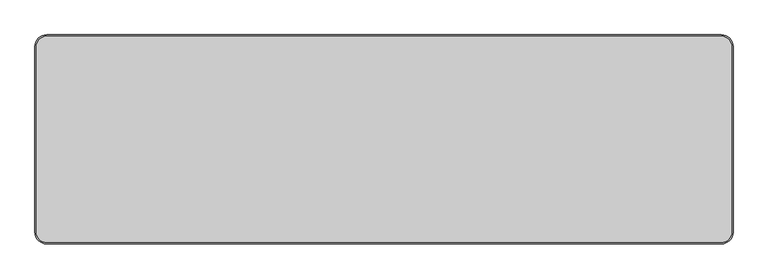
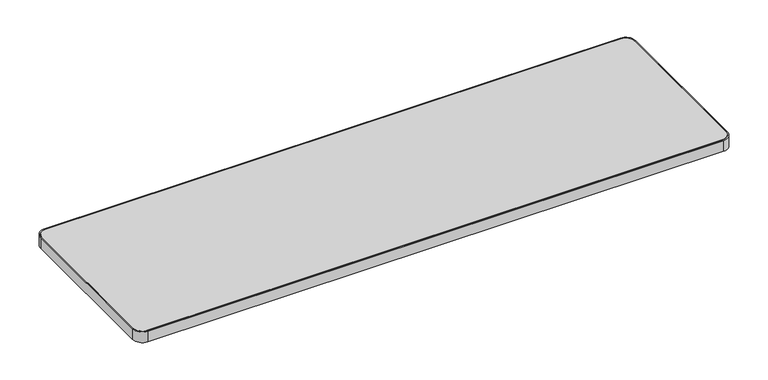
"""IFC4 building model written with IfcOpenShell, lengths in millimetres: furniture geometry, Steelcase - Groupwork - Table - Top - Rectangular : 18D x 60W - HPL."""

from ifc_helpers import new_model, si_unit, point, frame, frame_2d, origin, place, context, project, spatial, polyline, circle_curve, trimmed, segment, composite_curve, outline, extrude, source, transform, mapped, element, save


def furniture_15fa902d(model_context):
    return source(origin(), model_context, "Body", "SweptSolid", [
        extrude(outline(composite_curve([segment(polyline([(-764.54, 225.6), (707.74, 225.6)]), True, "CONTINUOUS"), segment(trimmed(circle_curve(frame_2d((707.74, 202.74)), 22.86), [point((707.74, 225.6))], [point((730.6, 202.74))], False, "CARTESIAN"), True, "CONTINUOUS"), segment(polyline([(730.6, 202.74), (730.6, -202.74)]), True, "CONTINUOUS"), segment(trimmed(circle_curve(frame_2d((707.74, -202.74)), 22.86), [point((730.6, -202.74))], [point((707.74, -225.6))], False, "CARTESIAN"), True, "CONTINUOUS"), segment(polyline([(707.74, -225.6), (-764.54, -225.6)]), True, "CONTINUOUS"), segment(trimmed(circle_curve(frame_2d((-764.54, -202.74)), 22.86), [point((-764.54, -225.6))], [point((-787.4, -202.74))], False, "CARTESIAN"), True, "CONTINUOUS"), segment(polyline([(-787.4, -202.74), (-787.4, 202.74)]), True, "CONTINUOUS"), segment(trimmed(circle_curve(frame_2d((-764.54, 202.74)), 22.86), [point((-787.4, 202.74))], [point((-764.54, 225.6))], False, "CARTESIAN"), True, "CONTINUOUS")], self_intersect=False)), frame((0.0, 0.0, 694.944), z_axis=(0.0, 0.0, 1.0), x_axis=(1.0, 0.0, 0.0)), (0.0, 0.0, 1.0), 28.956),
        extrude(outline(composite_curve([segment(trimmed(circle_curve(frame_2d((708.1385373, 203.1385373)), 25.4614627), [point((708.1385373, 228.6))], [point((733.6, 203.1385373))], False, "CARTESIAN"), True, "CONTINUOUS"), segment(polyline([(733.6, 203.1385373), (733.6, -203.2211297)]), True, "CONTINUOUS"), segment(trimmed(circle_curve(frame_2d((708.2211297, -203.2211297)), 25.3788703), [point((733.6, -203.2211297))], [point((708.2211297, -228.6))], False, "CARTESIAN"), True, "CONTINUOUS"), segment(polyline([(708.2211297, -228.6), (-765.0, -228.6)]), True, "CONTINUOUS"), segment(trimmed(circle_curve(frame_2d((-765.0, -203.2)), 25.4), [point((-765.0, -228.6))], [point((-790.4, -203.2))], False, "CARTESIAN"), True, "CONTINUOUS"), segment(polyline([(-790.4, -203.2), (-790.4, 203.2)]), True, "CONTINUOUS"), segment(trimmed(circle_curve(frame_2d((-765.0, 203.2)), 25.4), [point((-790.4, 203.2))], [point((-765.0, 228.6))], False, "CARTESIAN"), True, "CONTINUOUS"), segment(polyline([(-765.0, 228.6), (708.1385373, 228.6)]), True, "CONTINUOUS")], self_intersect=False), holes=[composite_curve([segment(polyline([(707.8064662, 225.6), (-764.54, 225.6)]), True, "CONTINUOUS"), segment(trimmed(circle_curve(frame_2d((-764.54, 202.74)), 22.86), [point((-764.54, 225.6))], [point((-787.4, 202.74))], True, "CARTESIAN"), True, "CONTINUOUS"), segment(polyline([(-787.4, 202.74), (-787.4, -202.74)]), True, "CONTINUOUS"), segment(trimmed(circle_curve(frame_2d((-764.54, -202.74)), 22.86), [point((-787.4, -202.74))], [point((-764.54, -225.6))], True, "CARTESIAN"), True, "CONTINUOUS"), segment(polyline([(-764.54, -225.6), (707.573488, -225.6)]), True, "CONTINUOUS"), segment(trimmed(circle_curve(frame_2d((707.573488, -202.573488)), 23.026512), [point((707.573488, -225.6))], [point((730.6, -202.573488))], True, "CARTESIAN"), True, "CONTINUOUS"), segment(polyline([(730.6, -202.573488), (730.6, 202.8064662)]), True, "CONTINUOUS"), segment(trimmed(circle_curve(frame_2d((707.8064662, 202.8064662)), 22.7935338), [point((730.6, 202.8064662))], [point((707.8064662, 225.6))], True, "CARTESIAN"), True, "CONTINUOUS")], self_intersect=False)]), frame((0.0, 0.0, 694.944), z_axis=(0.0, 0.0, 1.0), x_axis=(1.0, 0.0, 0.0)), (0.0, 0.0, 1.0), 28.956),
    ])


if __name__ == "__main__":
    model = new_model("IFC4")
    model_context = context("Model", 3, world=origin())
    ifc_project = project(units=[si_unit("LENGTHUNIT", "METRE", prefix="MILLI")], contexts=[model_context])
    site = spatial("IfcSite", under=ifc_project)
    building = spatial("IfcBuilding", under=site)
    placement = place(None, origin())
    furniture_shape = furniture_15fa902d(model_context)
    element("IfcFurniture", 1, ObjectType="Steelcase - Groupwork - Table - Top - Rectangular : 18D x 60W - HPL", at=placement, inside=building, context=model_context, shape_type="MappedRepresentation", body=[
        mapped(furniture_shape, transform((0.0, 0.0, 0.0), x_axis=(1.0, 0.0, 0.0), y_axis=(0.0, 1.0, 0.0), z_axis=(0.0, 0.0, 1.0))),
    ])
    save(model, "model.ifc")
